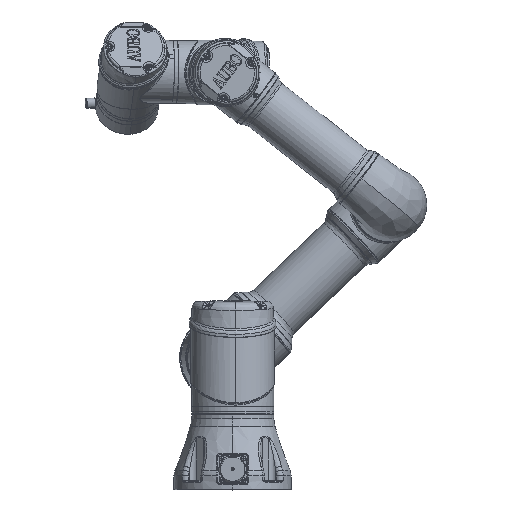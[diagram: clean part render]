
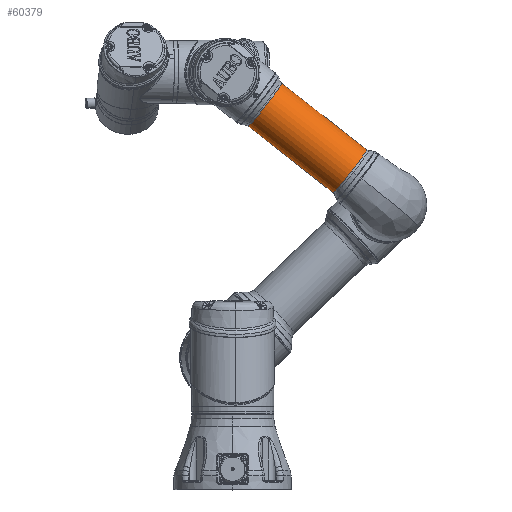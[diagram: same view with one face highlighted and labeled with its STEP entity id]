
A CAD part, top view. The second image highlights one B-rep face of the part: STEP entity #60379.
In plain terms, the highlighted cylindrical face has radius 32.5 mm (diameter 65 mm), a partial arc.
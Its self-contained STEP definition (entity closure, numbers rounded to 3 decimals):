
#8870 = CARTESIAN_POINT ( 'NONE',  ( 9.374, 488.268, -12.602 ) ) ;
#10653 = CARTESIAN_POINT ( 'NONE',  ( 9.374, 488.268, -45.102 ) ) ;
#22320 = AXIS2_PLACEMENT_3D ( 'NONE', #48510, #207595, #71713 ) ;
#24713 = CARTESIAN_POINT ( 'NONE',  ( 9.374, 488.268, 19.898 ) ) ;
#25368 = ORIENTED_EDGE ( 'NONE', *, *, #211464, .T. ) ;
#28150 = LINE ( 'NONE', #252613, #149631 ) ;
#48510 = CARTESIAN_POINT ( 'NONE',  ( 9.374, 488.268, -12.602 ) ) ;
#59873 = DIRECTION ( 'NONE',  ( 0., 1., 0. ) ) ;
#60379 = ADVANCED_FACE ( 'NONE', ( #183096 ), #81234, .T. ) ;
#63993 = ORIENTED_EDGE ( 'NONE', *, *, #84530, .F. ) ;
#71713 = DIRECTION ( 'NONE',  ( 0., 0., 1. ) ) ;
#74482 = ORIENTED_EDGE ( 'NONE', *, *, #162295, .T. ) ;
#77164 = VERTEX_POINT ( 'NONE', #160062 ) ;
#81234 = CYLINDRICAL_SURFACE ( 'NONE', #154792, 32.5 ) ;
#84530 = EDGE_CURVE ( 'NONE', #119462, #191940, #28150, .T. ) ;
#93128 = EDGE_CURVE ( 'NONE', #195727, #77164, #167952, .T. ) ;
#94362 = DIRECTION ( 'NONE',  ( 0., -1., 0. ) ) ;
#99270 = DIRECTION ( 'NONE',  ( 0., 1., 0. ) ) ;
#110797 = VERTEX_POINT ( 'NONE', #156705 ) ;
#115891 = DIRECTION ( 'NONE',  ( 0., -1., 0. ) ) ;
#119462 = VERTEX_POINT ( 'NONE', #24713 ) ;
#140335 = CIRCLE ( 'NONE', #256794, 32.5 ) ;
#148525 = DIRECTION ( 'NONE',  ( 0., 1., 0. ) ) ;
#149631 = VECTOR ( 'NONE', #294081, 1000. ) ;
#154792 = AXIS2_PLACEMENT_3D ( 'NONE', #8870, #99270, #282080 ) ;
#156705 = CARTESIAN_POINT ( 'NONE',  ( 41.874, 488.268, -12.602 ) ) ;
#159926 = ORIENTED_EDGE ( 'NONE', *, *, #93128, .T. ) ;
#160062 = CARTESIAN_POINT ( 'NONE',  ( 41.874, 617.232, -12.602 ) ) ;
#162295 = EDGE_CURVE ( 'NONE', #110797, #187142, #280709, .T. ) ;
#167952 = CIRCLE ( 'NONE', #238468, 32.5 ) ;
#183096 = FACE_OUTER_BOUND ( 'NONE', #240593, .T. ) ;
#187142 = VERTEX_POINT ( 'NONE', #225600 ) ;
#187674 = AXIS2_PLACEMENT_3D ( 'NONE', #196010, #59873, #218645 ) ;
#191940 = VERTEX_POINT ( 'NONE', #202270 ) ;
#195727 = VERTEX_POINT ( 'NONE', #279836 ) ;
#196010 = CARTESIAN_POINT ( 'NONE',  ( 9.374, 488.268, -12.602 ) ) ;
#202270 = CARTESIAN_POINT ( 'NONE',  ( 9.374, 617.232, 19.898 ) ) ;
#204973 = EDGE_CURVE ( 'NONE', #187142, #195727, #271919, .T. ) ;
#207595 = DIRECTION ( 'NONE',  ( 0., 1., 0. ) ) ;
#211464 = EDGE_CURVE ( 'NONE', #77164, #191940, #140335, .T. ) ;
#218645 = DIRECTION ( 'NONE',  ( 0., 0., 1. ) ) ;
#218980 = VECTOR ( 'NONE', #148525, 1000. ) ;
#225600 = CARTESIAN_POINT ( 'NONE',  ( 9.374, 488.268, -45.102 ) ) ;
#229726 = CARTESIAN_POINT ( 'NONE',  ( 9.374, 617.232, -12.602 ) ) ;
#238468 = AXIS2_PLACEMENT_3D ( 'NONE', #251191, #115891, #273953 ) ;
#240593 = EDGE_LOOP ( 'NONE', ( #74482, #258072, #159926, #25368, #63993, #272898 ) ) ;
#251191 = CARTESIAN_POINT ( 'NONE',  ( 9.374, 617.232, -12.602 ) ) ;
#252548 = DIRECTION ( 'NONE',  ( 0., 0., 1. ) ) ;
#252613 = CARTESIAN_POINT ( 'NONE',  ( 9.374, 488.268, 19.898 ) ) ;
#256794 = AXIS2_PLACEMENT_3D ( 'NONE', #229726, #94362, #252548 ) ;
#258072 = ORIENTED_EDGE ( 'NONE', *, *, #204973, .T. ) ;
#260805 = EDGE_CURVE ( 'NONE', #119462, #110797, #262534, .T. ) ;
#262534 = CIRCLE ( 'NONE', #187674, 32.5 ) ;
#271919 = LINE ( 'NONE', #10653, #218980 ) ;
#272898 = ORIENTED_EDGE ( 'NONE', *, *, #260805, .T. ) ;
#273953 = DIRECTION ( 'NONE',  ( 0., 0., 1. ) ) ;
#279836 = CARTESIAN_POINT ( 'NONE',  ( 9.374, 617.232, -45.102 ) ) ;
#280709 = CIRCLE ( 'NONE', #22320, 32.5 ) ;
#282080 = DIRECTION ( 'NONE',  ( 0., 0., 1. ) ) ;
#294081 = DIRECTION ( 'NONE',  ( 0., 1., 0. ) ) ;
